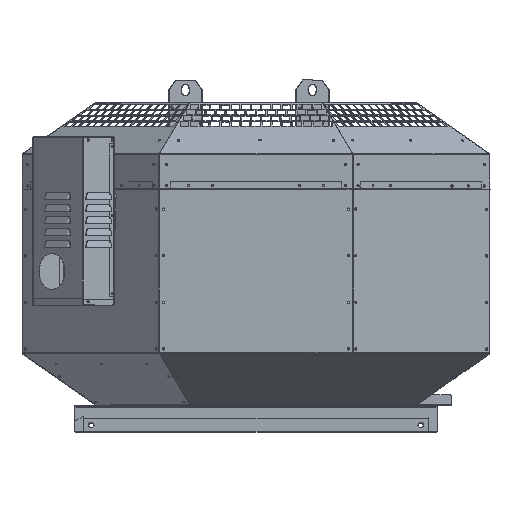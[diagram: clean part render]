
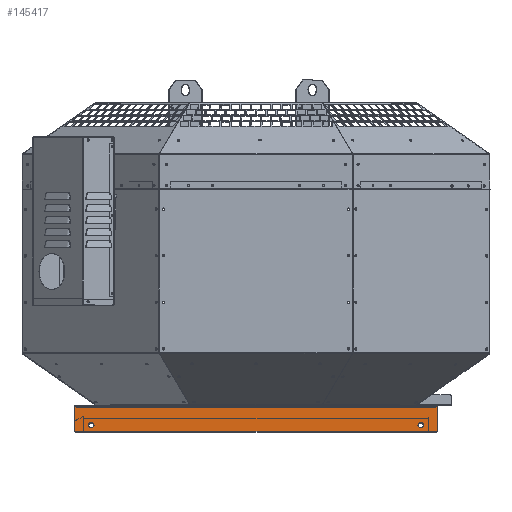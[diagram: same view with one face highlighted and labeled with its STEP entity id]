
A CAD part, top view. The second image highlights one B-rep face of the part: STEP entity #145417.
In plain terms, the highlighted planar face has unit normal (0, 0, 1).
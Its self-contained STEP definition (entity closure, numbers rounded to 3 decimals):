
#986 = DIRECTION ( 'NONE',  ( -1., 0., 0. ) ) ;
#1424 = DIRECTION ( 'NONE',  ( 0., 0., 1. ) ) ;
#6886 = DIRECTION ( 'NONE',  ( 0., 0., 1. ) ) ;
#7719 = VERTEX_POINT ( 'NONE', #61575 ) ;
#9016 = EDGE_LOOP ( 'NONE', ( #113641, #74427, #133445, #137127, #138584, #55309, #124316, #132142 ) ) ;
#10746 = AXIS2_PLACEMENT_3D ( 'NONE', #69560, #1424, #81060 ) ;
#11037 = CARTESIAN_POINT ( 'NONE',  ( -309.45, -24., 301.1 ) ) ;
#12874 = DIRECTION ( 'NONE',  ( 0., 0., 1. ) ) ;
#13001 = CARTESIAN_POINT ( 'NONE',  ( 283., -17.7, 301.1 ) ) ;
#14676 = LINE ( 'NONE', #35801, #71664 ) ;
#20030 = VERTEX_POINT ( 'NONE', #101684 ) ;
#21174 = CARTESIAN_POINT ( 'NONE',  ( -283., -8.7, 301.1 ) ) ;
#31468 = CARTESIAN_POINT ( 'NONE',  ( -309.05, 17.6, 301.1 ) ) ;
#31951 = VECTOR ( 'NONE', #129326, 1000. ) ;
#32278 = AXIS2_PLACEMENT_3D ( 'NONE', #75104, #6886, #86572 ) ;
#34938 = LINE ( 'NONE', #95099, #132894 ) ;
#35252 = ORIENTED_EDGE ( 'NONE', *, *, #138489, .F. ) ;
#35710 = CARTESIAN_POINT ( 'NONE',  ( -283., -13.2, 301.1 ) ) ;
#35801 = CARTESIAN_POINT ( 'NONE',  ( -294.55, -24., 301.1 ) ) ;
#36986 = CARTESIAN_POINT ( 'NONE',  ( -312.45, -21., 301.1 ) ) ;
#38129 = FACE_OUTER_BOUND ( 'NONE', #9016, .T. ) ;
#40826 = CARTESIAN_POINT ( 'NONE',  ( -294.55, 17.6, 301.1 ) ) ;
#42350 = AXIS2_PLACEMENT_3D ( 'NONE', #44148, #123760, #55545 ) ;
#42421 = CARTESIAN_POINT ( 'NONE',  ( -309.45, -21., 301.1 ) ) ;
#44148 = CARTESIAN_POINT ( 'NONE',  ( -283., -13.2, 301.1 ) ) ;
#47155 = DIRECTION ( 'NONE',  ( 0., -1., 0. ) ) ;
#48340 = VECTOR ( 'NONE', #90881, 1000. ) ;
#51591 = EDGE_CURVE ( 'NONE', #7719, #140351, #64599, .T. ) ;
#51934 = CIRCLE ( 'NONE', #42350, 4.5 ) ;
#52470 = VERTEX_POINT ( 'NONE', #36986 ) ;
#53775 = DIRECTION ( 'NONE',  ( 0., -1., 0. ) ) ;
#54674 = VERTEX_POINT ( 'NONE', #13001 ) ;
#55309 = ORIENTED_EDGE ( 'NONE', *, *, #80136, .F. ) ;
#55545 = DIRECTION ( 'NONE',  ( 0., -1., 0. ) ) ;
#59357 = EDGE_CURVE ( 'NONE', #88425, #52470, #62154, .T. ) ;
#60577 = CIRCLE ( 'NONE', #101320, 4.5 ) ;
#61575 = CARTESIAN_POINT ( 'NONE',  ( 309.05, 17.6, 301.1 ) ) ;
#61666 = DIRECTION ( 'NONE',  ( 0., 0., 1. ) ) ;
#62154 = LINE ( 'NONE', #128829, #31951 ) ;
#63160 = VERTEX_POINT ( 'NONE', #147521 ) ;
#64190 = EDGE_CURVE ( 'NONE', #52470, #67057, #87681, .T. ) ;
#64599 = LINE ( 'NONE', #137292, #121662 ) ;
#67057 = VERTEX_POINT ( 'NONE', #11037 ) ;
#68179 = AXIS2_PLACEMENT_3D ( 'NONE', #42421, #121999, #53775 ) ;
#68368 = FACE_BOUND ( 'NONE', #75304, .T. ) ;
#69560 = CARTESIAN_POINT ( 'NONE',  ( 283., -13.2, 301.1 ) ) ;
#70867 = VERTEX_POINT ( 'NONE', #145423 ) ;
#71664 = VECTOR ( 'NONE', #126861, 1000. ) ;
#74427 = ORIENTED_EDGE ( 'NONE', *, *, #64190, .T. ) ;
#75104 = CARTESIAN_POINT ( 'NONE',  ( -294.55, 19.5, 301.1 ) ) ;
#75304 = EDGE_LOOP ( 'NONE', ( #140991, #119348 ) ) ;
#77299 = AXIS2_PLACEMENT_3D ( 'NONE', #129850, #61666, #141252 ) ;
#77423 = EDGE_LOOP ( 'NONE', ( #120648, #35252 ) ) ;
#78271 = EDGE_CURVE ( 'NONE', #140351, #88425, #119234, .T. ) ;
#79433 = CARTESIAN_POINT ( 'NONE',  ( 312.45, 17.6, 301.1 ) ) ;
#80136 = EDGE_CURVE ( 'NONE', #7719, #96828, #34938, .T. ) ;
#81060 = DIRECTION ( 'NONE',  ( 0., -1., 0. ) ) ;
#81115 = CARTESIAN_POINT ( 'NONE',  ( 309.45, -21., 301.1 ) ) ;
#86572 = DIRECTION ( 'NONE',  ( 0., -1., 0. ) ) ;
#86606 = DIRECTION ( 'NONE',  ( -1., 0., 0. ) ) ;
#87681 = CIRCLE ( 'NONE', #68179, 3. ) ;
#88425 = VERTEX_POINT ( 'NONE', #102966 ) ;
#88963 = VECTOR ( 'NONE', #86606, 1000. ) ;
#90695 = VERTEX_POINT ( 'NONE', #21174 ) ;
#90881 = DIRECTION ( 'NONE',  ( 0., -1., 0. ) ) ;
#92539 = DIRECTION ( 'NONE',  ( 0., -1., 0. ) ) ;
#94815 = AXIS2_PLACEMENT_3D ( 'NONE', #81115, #12874, #92539 ) ;
#95099 = CARTESIAN_POINT ( 'NONE',  ( 294.55, 17.6, 301.1 ) ) ;
#96828 = VERTEX_POINT ( 'NONE', #132940 ) ;
#98477 = EDGE_CURVE ( 'NONE', #54674, #20030, #98490, .T. ) ;
#98490 = CIRCLE ( 'NONE', #77299, 4.5 ) ;
#100691 = EDGE_CURVE ( 'NONE', #116253, #90695, #60577, .T. ) ;
#101320 = AXIS2_PLACEMENT_3D ( 'NONE', #35710, #115413, #47155 ) ;
#101684 = CARTESIAN_POINT ( 'NONE',  ( 283., -8.7, 301.1 ) ) ;
#102614 = EDGE_CURVE ( 'NONE', #20030, #54674, #102809, .T. ) ;
#102809 = CIRCLE ( 'NONE', #10746, 4.5 ) ;
#102966 = CARTESIAN_POINT ( 'NONE',  ( -312.45, 17.6, 301.1 ) ) ;
#110760 = EDGE_CURVE ( 'NONE', #96828, #63160, #139097, .T. ) ;
#113641 = ORIENTED_EDGE ( 'NONE', *, *, #59357, .T. ) ;
#115413 = DIRECTION ( 'NONE',  ( 0., 0., 1. ) ) ;
#116253 = VERTEX_POINT ( 'NONE', #140990 ) ;
#119234 = LINE ( 'NONE', #40826, #88963 ) ;
#119348 = ORIENTED_EDGE ( 'NONE', *, *, #102614, .F. ) ;
#120648 = ORIENTED_EDGE ( 'NONE', *, *, #100691, .F. ) ;
#121662 = VECTOR ( 'NONE', #986, 1000. ) ;
#121999 = DIRECTION ( 'NONE',  ( 0., 0., 1. ) ) ;
#123760 = DIRECTION ( 'NONE',  ( 0., 0., 1. ) ) ;
#124316 = ORIENTED_EDGE ( 'NONE', *, *, #51591, .T. ) ;
#126861 = DIRECTION ( 'NONE',  ( -1., 0., 0. ) ) ;
#128829 = CARTESIAN_POINT ( 'NONE',  ( -312.45, 17.6, 301.1 ) ) ;
#128908 = FACE_BOUND ( 'NONE', #77423, .T. ) ;
#129326 = DIRECTION ( 'NONE',  ( 0., -1., 0. ) ) ;
#129850 = CARTESIAN_POINT ( 'NONE',  ( 283., -13.2, 301.1 ) ) ;
#132142 = ORIENTED_EDGE ( 'NONE', *, *, #78271, .T. ) ;
#132894 = VECTOR ( 'NONE', #140816, 1000. ) ;
#132940 = CARTESIAN_POINT ( 'NONE',  ( 312.45, 17.6, 301.1 ) ) ;
#133445 = ORIENTED_EDGE ( 'NONE', *, *, #140630, .F. ) ;
#137127 = ORIENTED_EDGE ( 'NONE', *, *, #139806, .T. ) ;
#137292 = CARTESIAN_POINT ( 'NONE',  ( -294.55, 17.6, 301.1 ) ) ;
#137751 = CIRCLE ( 'NONE', #94815, 3. ) ;
#138489 = EDGE_CURVE ( 'NONE', #90695, #116253, #51934, .T. ) ;
#138584 = ORIENTED_EDGE ( 'NONE', *, *, #110760, .F. ) ;
#139097 = LINE ( 'NONE', #79433, #48340 ) ;
#139806 = EDGE_CURVE ( 'NONE', #70867, #63160, #137751, .T. ) ;
#140351 = VERTEX_POINT ( 'NONE', #31468 ) ;
#140630 = EDGE_CURVE ( 'NONE', #70867, #67057, #14676, .T. ) ;
#140816 = DIRECTION ( 'NONE',  ( 1., 0., 0. ) ) ;
#140990 = CARTESIAN_POINT ( 'NONE',  ( -283., -17.7, 301.1 ) ) ;
#140991 = ORIENTED_EDGE ( 'NONE', *, *, #98477, .F. ) ;
#141252 = DIRECTION ( 'NONE',  ( 0., -1., 0. ) ) ;
#143210 = PLANE ( 'NONE',  #32278 ) ;
#145417 = ADVANCED_FACE ( 'NONE', ( #68368, #128908, #38129 ), #143210, .T. ) ;
#145423 = CARTESIAN_POINT ( 'NONE',  ( 309.45, -24., 301.1 ) ) ;
#147521 = CARTESIAN_POINT ( 'NONE',  ( 312.45, -21., 301.1 ) ) ;
